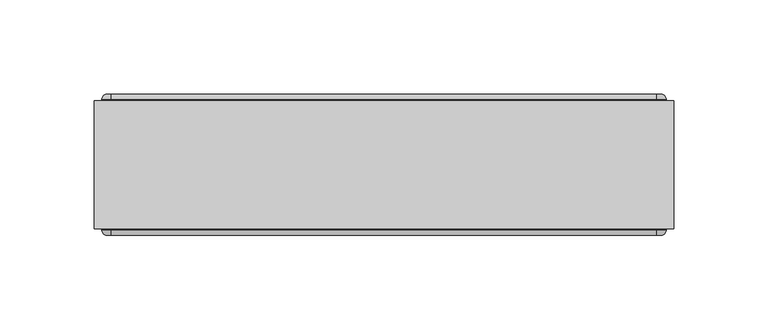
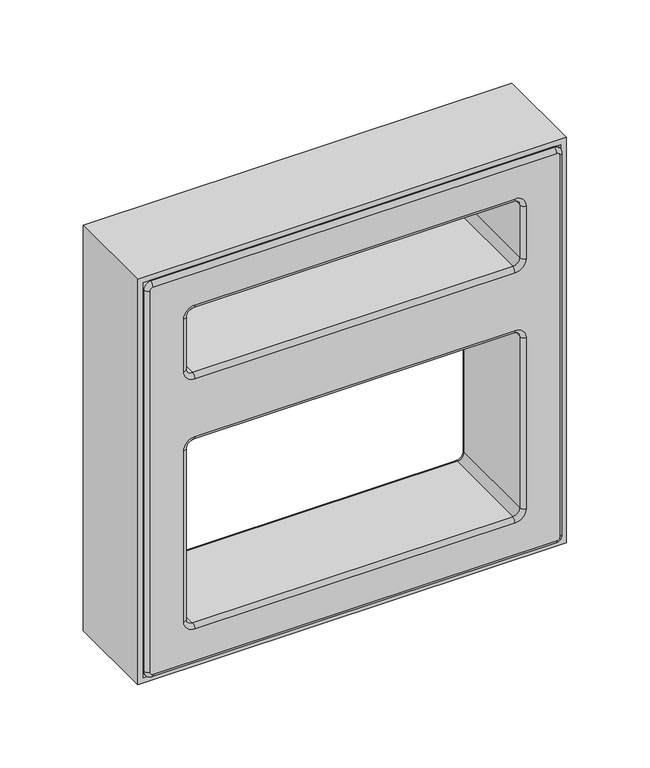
"""IFC4 building model written with IfcOpenShell, lengths in millimetres: proxy geometry, PORTOBELLO - ELEMENTO ASSIM BRANCO 30X30 (COBOGO) : ASSIM BRANCO."""

import ifcopenshell
import ifcopenshell.guid

model = None  # the IFC model being written
_history = None  # IfcOwnerHistory: only IFC2X3 demands one
_inside = {}  # id of a spatial element -> (the spatial element, [elements in it])
_under = {}  # id of a project, library or spatial element -> (it, [spatial elements below it])
_declared = {}  # id of a project -> (the project, [libraries it declares])
_typed = {}  # id of a type object -> (the type object, [elements of that type])
_made_of = {}  # id of a material, layer set ... -> (it, [elements and type objects made of it])


def new_model(schema):
    """Start an empty IFC model of exactly this schema.

    Asked for "IFC4X3", IfcOpenShell would pick the latest addendum, in which some entities
    have other attributes; the version numbers below select the first issue.
    IFC2X3 requires an IfcOwnerHistory on every rooted entity: one is made here for all.
    """
    global model, _history
    if schema == "IFC4X3":
        model = ifcopenshell.file(schema_version=(4, 3, 0, 0))
    else:
        model = ifcopenshell.file(schema=schema)
    _inside.clear()
    _under.clear()
    _declared.clear()
    _typed.clear()
    _made_of.clear()
    _history = None
    if model.schema == "IFC2X3":
        org = make("IfcOrganization", Name="unknown")
        user = make(
            "IfcPersonAndOrganization",
            ThePerson=make("IfcPerson", FamilyName="unknown"),
            TheOrganization=org,
        )
        app = make(
            "IfcApplication",
            ApplicationDeveloper=org,
            Version="unknown",
            ApplicationFullName="unknown",
            ApplicationIdentifier="unknown",
        )
        _history = make(
            "IfcOwnerHistory",
            OwningUser=user,
            OwningApplication=app,
            ChangeAction="ADDED",
            CreationDate=0,
        )
    return model


def make(cls, **values):
    """One entity of the class cls with the attributes given. An attribute that is None is left unset."""
    return model.create_entity(
        cls, **{name: value for name, value in values.items() if value is not None}
    )


def rooted(cls, **values):
    """An entity with a GlobalId (a new one), such as an element, a storey or a relation."""
    return make(cls, GlobalId=ifcopenshell.guid.new(), OwnerHistory=_history, **values)


def si_unit(unit_type, name, prefix=None):
    """IfcSIUnit, for example si_unit("LENGTHUNIT", "METRE", prefix="MILLI")."""
    return make("IfcSIUnit", UnitType=unit_type, Prefix=prefix, Name=name)


def assignment(units):
    """IfcUnitAssignment: the units of a project."""
    return None if units is None else make("IfcUnitAssignment", Units=units)


def point(xyz):
    """IfcCartesianPoint."""
    return None if xyz is None else make("IfcCartesianPoint", Coordinates=xyz)


def direction(xyz):
    """IfcDirection."""
    return None if xyz is None else make("IfcDirection", DirectionRatios=xyz)


def frame(location, z_axis=None, x_axis=None):
    """IfcAxis2Placement3D, a coordinate frame: its origin and axes. An axis left out is left unset."""
    return make(
        "IfcAxis2Placement3D",
        Location=point(location),
        Axis=direction(z_axis),
        RefDirection=direction(x_axis),
    )


def origin():
    """The frame at (0, 0, 0) with its axes left unset."""
    return frame((0.0, 0.0, 0.0))


def place(relative_to, where):
    """IfcLocalPlacement: puts the frame where relative to a parent placement (None: the world)."""
    return make(
        "IfcLocalPlacement", PlacementRelTo=relative_to, RelativePlacement=where
    )


def context(
    kind, dimensions, precision=None, world=None, true_north=None, identifier=None
):
    """IfcGeometricRepresentationContext, for example the 3D "Model" context."""
    return make(
        "IfcGeometricRepresentationContext",
        ContextIdentifier=identifier,
        ContextType=kind,
        CoordinateSpaceDimension=dimensions,
        Precision=precision,
        WorldCoordinateSystem=world,
        TrueNorth=true_north,
    )


def project(units=None, contexts=None):
    """IfcProject with its units and contexts."""
    return rooted(
        "IfcProject",
        Name="project",
        RepresentationContexts=contexts,
        UnitsInContext=assignment(units),
    )


def spatial(cls, under=None, at=None, **own):
    """A site, building, storey or space (cls), placed at a placement, below another one or the project."""
    s = rooted(cls, ObjectPlacement=at, **own)
    if under is not None:
        _under.setdefault(under.id(), (under, []))[1].append(s)
    return s


def polyline(points):
    """IfcPolyline through the points."""
    return make("IfcPolyline", Points=[point(p) for p in points])


def circle_curve(where, radius):
    """IfcCircle in the frame where."""
    return make("IfcCircle", Position=where, Radius=radius)


def ellipse_curve(where, semi_axis1, semi_axis2):
    """IfcEllipse in the frame where."""
    return make(
        "IfcEllipse", Position=where, SemiAxis1=semi_axis1, SemiAxis2=semi_axis2
    )


def trimmed(basis, trim1, trim2, sense, master):
    """IfcTrimmedCurve: the piece of a basis curve between two trims."""
    return make(
        "IfcTrimmedCurve",
        BasisCurve=basis,
        Trim1=trim1,
        Trim2=trim2,
        SenseAgreement=sense,
        MasterRepresentation=master,
    )


def outline(outer, holes=None, kind="AREA"):
    """IfcArbitraryClosedProfileDef: a profile drawn as a closed curve; with holes, ...WithVoids."""
    if holes is None:
        return make("IfcArbitraryClosedProfileDef", ProfileType=kind, OuterCurve=outer)
    return make(
        "IfcArbitraryProfileDefWithVoids",
        ProfileType=kind,
        OuterCurve=outer,
        InnerCurves=holes,
    )


def extrude(swept, where, along, depth):
    """IfcExtrudedAreaSolid: the profile swept, set in the frame where, extruded along a direction by depth."""
    return make(
        "IfcExtrudedAreaSolid",
        SweptArea=swept,
        Position=where,
        ExtrudedDirection=direction(along),
        Depth=depth,
    )


def shape(context_of_items, identifier, shape_type, items):
    """IfcShapeRepresentation: the items that make up one representation, for example the "Body"."""
    return make(
        "IfcShapeRepresentation",
        ContextOfItems=context_of_items,
        RepresentationIdentifier=identifier,
        RepresentationType=shape_type,
        Items=items,
    )


def source(mapping_origin, context_of_items, identifier, shape_type, items):
    """IfcRepresentationMap: a shape defined once, which mapped items show again and again."""
    return make(
        "IfcRepresentationMap",
        MappingOrigin=mapping_origin,
        MappedRepresentation=shape(context_of_items, identifier, shape_type, items),
    )


def transform(
    local_origin,
    x_axis=None,
    y_axis=None,
    z_axis=None,
    scale=None,
    scale2=None,
    scale3=None,
    uniform=True,
):
    """IfcCartesianTransformationOperator3D, or its non-uniform kind. x_axis, y_axis, z_axis: its Axis1, 2, 3."""
    if uniform:
        return make(
            "IfcCartesianTransformationOperator3D",
            Axis1=direction(x_axis),
            Axis2=direction(y_axis),
            LocalOrigin=point(local_origin),
            Scale=scale,
            Axis3=direction(z_axis),
        )
    return make(
        "IfcCartesianTransformationOperator3DnonUniform",
        Axis1=direction(x_axis),
        Axis2=direction(y_axis),
        LocalOrigin=point(local_origin),
        Scale=scale,
        Axis3=direction(z_axis),
        Scale2=scale2,
        Scale3=scale3,
    )


def mapped(mapping_source, mapping_target):
    """IfcMappedItem: shows the shape of a source again, moved by a transform."""
    return make(
        "IfcMappedItem", MappingSource=mapping_source, MappingTarget=mapping_target
    )


def made_of(thing, what):
    """Note that an element or type object is made of a material, layer set ...; save() writes the relation."""
    if what is not None:
        _made_of.setdefault(what.id(), (what, []))[1].append(thing)
    return thing


def element(
    cls,
    number,
    at=None,
    inside=None,
    cuts=None,
    type_object=None,
    material=None,
    context=None,
    identifier="Body",
    shape_type=None,
    held_by="IfcProductDefinitionShape",
    body=None,
    shapes=None,
    **own,
):
    """One element of the class cls, such as IfcWall. Its Tag is "e" and its number.

    at: its placement. inside: the storey or other place that contains it. cuts: it is an
    opening in that element (IfcRelVoidsElement). A single representation is given by context,
    identifier, shape_type and body (its items); several are given by shapes. held_by: the class
    of the entity that holds the representations. save() writes the other relations.
    """
    e = rooted(cls, Tag="e%d" % number, ObjectPlacement=at, **own)
    if body is not None:
        shapes = [shape(context, identifier, shape_type, body)]
    if shapes is not None:
        e.Representation = make(held_by, Representations=shapes)
    if inside is not None:
        _inside.setdefault(inside.id(), (inside, []))[1].append(e)
    if cuts is not None:
        rooted(
            "IfcRelVoidsElement", RelatingBuildingElement=cuts, RelatedOpeningElement=e
        )
    if type_object is not None:
        _typed.setdefault(type_object.id(), (type_object, []))[1].append(e)
    return made_of(e, material)


def aggregate(whole, parts):
    """IfcRelAggregates: a whole, such as a stair, and the parts it consists of."""
    return rooted("IfcRelAggregates", RelatingObject=whole, RelatedObjects=parts)


def save(model, path):
    """Write the relations noted so far, then the file.

    IfcRelAggregates (storeys below a building ...), IfcRelContainedInSpatialStructure (elements
    in a storey), IfcRelDefinesByType, IfcRelAssociatesMaterial and IfcRelDeclares: one each for
    every whole, place, type object, material and project.
    """
    for whole, parts in _under.values():
        aggregate(whole, parts)
    for where, things in _inside.values():
        rooted(
            "IfcRelContainedInSpatialStructure",
            RelatedElements=things,
            RelatingStructure=where,
        )
    for kind, things in _typed.values():
        rooted("IfcRelDefinesByType", RelatedObjects=things, RelatingType=kind)
    for what, things in _made_of.values():
        rooted("IfcRelAssociatesMaterial", RelatedObjects=things, RelatingMaterial=what)
    for by, libraries in _declared.values():
        rooted("IfcRelDeclares", RelatingContext=by, RelatedDefinitions=libraries)
    model.write(path)


def plane_surface(at):
    """IfcPlane: the flat surface through the origin of the frame at, square to its z axis."""
    return make("IfcPlane", Position=at)


def cylinder_surface(at, radius):
    """IfcCylindricalSurface: all points at the distance radius from the z axis of the frame at."""
    return make("IfcCylindricalSurface", Position=at, Radius=radius)


def revolved_surface(curve, axis_point, axis_direction):
    """IfcSurfaceOfRevolution: the curve turned about the line through axis_point along axis_direction."""
    return make(
        "IfcSurfaceOfRevolution",
        SweptCurve=make("IfcArbitraryOpenProfileDef", ProfileType="CURVE", Curve=curve),
        AxisPosition=make("IfcAxis1Placement", Location=point(axis_point), Axis=direction(axis_direction)),
    )


def advanced_brep(points, edges, surfaces, faces):
    """IfcAdvancedBrep: a solid bounded by faces that lie on surfaces and meet in shared edges.

    An edge is (start, end): straight between two places in points (the first is 0);
    or (start, end, curve); or (start, end, curve, False) where it runs against its curve.
    A face is (place in surfaces, loops), or (place, loops, False) where it looks against
    its surface's normal. A loop lists edges by number (the first is 1), with a minus sign
    where the edge is run from its end to its start. The first loop is the outer one.
    """
    corners = [point(p) for p in points]
    vertices = [make("IfcVertexPoint", VertexGeometry=c) for c in corners]
    made = []
    for start, end, *more in edges:
        made.append(
            make(
                "IfcEdgeCurve",
                EdgeStart=vertices[start],
                EdgeEnd=vertices[end],
                EdgeGeometry=more[0] if more else make("IfcPolyline", Points=[corners[start], corners[end]]),
                SameSense=more[1] if len(more) > 1 else True,
            )
        )
    hull = []
    for where, loops, *sense in faces:
        bounds = []
        for j, loop in enumerate(loops):
            ring = [make("IfcOrientedEdge", EdgeElement=made[abs(k) - 1], Orientation=k > 0) for k in loop]
            bounds.append(
                make(
                    "IfcFaceOuterBound" if j == 0 else "IfcFaceBound",
                    Bound=make("IfcEdgeLoop", EdgeList=ring),
                    Orientation=True,
                )
            )
        hull.append(make("IfcAdvancedFace", Bounds=bounds, FaceSurface=surfaces[where], SameSense=sense[0] if sense else True))
    return make("IfcAdvancedBrep", Outer=make("IfcClosedShell", CfsFaces=hull))


def generic_models_726e0611(model_context):
    return source(origin(), model_context, "Body", "SolidModel", [
        advanced_brep(
        [(-147.0, -37.5, 9.0), (-145.0, -37.5, 7.0), (145.0, -37.5, 7.0), (147.0, -37.5, 9.0), (147.0, -37.5, 299.0), (145.0, -37.5, 301.0), (-145.0, -37.5, 301.0), (-147.0, -37.5, 299.0), (-115.0, -37.5, 31.0), (-123.0, -37.5, 39.0), (-123.0, -37.5, 169.0), (-115.0, -37.5, 177.0), (115.0, -37.5, 177.0), (123.0, -37.5, 169.0), (123.0, -37.5, 39.0), (115.0, -37.5, 31.0), (-115.0, -37.5, 221.0), (-123.0, -37.5, 229.0), (-123.0, -37.5, 269.0), (-115.0, -37.5, 277.0), (115.0, -37.5, 277.0), (123.0, -37.5, 269.0), (123.0, -37.5, 229.0), (115.0, -37.5, 221.0), (-145.0, 37.5, 7.0), (-147.0, 37.5, 9.0), (-147.0, 37.5, 299.0), (-145.0, 37.5, 301.0), (145.0, 37.5, 301.0), (147.0, 37.5, 299.0), (147.0, 37.5, 9.0), (145.0, 37.5, 7.0), (-123.0, 37.5, 39.0), (-115.0, 37.5, 31.0), (115.0, 37.5, 31.0), (123.0, 37.5, 39.0), (123.0, 37.5, 169.0), (115.0, 37.5, 177.0), (-115.0, 37.5, 177.0), (-123.0, 37.5, 169.0), (-123.0, 37.5, 229.0), (-115.0, 37.5, 221.0), (115.0, 37.5, 221.0), (123.0, 37.5, 229.0), (123.0, 37.5, 269.0), (115.0, 37.5, 277.0), (-115.0, 37.5, 277.0), (-123.0, 37.5, 269.0), (145.0, -34.5, 4.0), (145.0, 34.5, 4.0), (150.0, 34.5, 9.0), (150.0, -34.5000025, 9.0), (-145.0, -34.5, 4.0), (-145.0, 34.5, 4.0), (-150.0, -34.5, 9.0), (-150.0, 34.5, 9.0), (-150.0, -34.5, 299.0), (-150.0, 34.5, 299.0), (-145.0, -34.5, 304.0), (-145.0, 34.5, 304.0), (145.0, -34.5, 304.0), (145.0, 34.5, 304.0), (150.0, -34.5, 299.0), (150.0, 34.5, 299.0), (115.0, -34.5000026, 34.0), (115.0, 34.5, 34.0), (-115.0, 34.5, 34.0), (-115.0, -34.5000017, 34.0), (120.0, -34.5, 39.0), (120.0, 34.5, 39.0), (120.0, -34.5, 169.0), (120.0, 34.5, 169.0), (115.0, -34.5, 174.0), (115.0, 34.5, 174.0), (-115.0, -34.5, 174.0), (-115.0, 34.5, 174.0), (-120.0, -34.5, 169.0), (-120.0, 34.5, 169.0), (-120.0, -34.5, 39.0), (-120.0, 34.5, 39.0), (-115.0, -34.5000026, 274.0), (-115.0, 34.5, 274.0), (115.0, 34.5, 274.0), (115.0, -34.5, 274.0), (-120.0, -34.5, 269.0), (-120.0, 34.5, 269.0), (-120.0, -34.5, 229.0), (-120.0, 34.5, 229.0), (-115.0, -34.5, 224.0), (-115.0, 34.5, 224.0), (115.0, -34.5, 224.0), (115.0, 34.5, 224.0), (120.0, -34.5, 229.0), (120.0, 34.5, 229.0), (120.0, -34.5, 269.0), (120.0, 34.5, 269.0)],
        [
            (0, 1, circle_curve(frame((-145.0, -37.5, 9.0), z_axis=(0.0, -1.0, 0.0), x_axis=(-1.0, 0.0, 0.0)), 2.0)),
            (1, 2),
            (2, 3, circle_curve(frame((145.0, -37.5, 9.0), z_axis=(0.0, -1.0, 0.0), x_axis=(0.0, 0.0, -1.0)), 2.0)),
            (3, 4),
            (4, 5, circle_curve(frame((145.0, -37.5, 299.0), z_axis=(0.0, -1.0, 0.0), x_axis=(1.0, 0.0, 0.0)), 2.0)),
            (5, 6),
            (6, 7, circle_curve(frame((-145.0, -37.5, 299.0), z_axis=(0.0, -1.0, 0.0), x_axis=(0.0, 0.0, 1.0)), 2.0)),
            (7, 0),
            (8, 9, circle_curve(frame((-115.0, -37.5, 39.0), z_axis=(0.0, 1.0, 0.0), x_axis=(0.0, 0.0, -1.0)), 8.0)),
            (9, 10),
            (10, 11, circle_curve(frame((-115.0, -37.5, 169.0), z_axis=(0.0, 1.0, 0.0), x_axis=(-1.0, 0.0, 0.0)), 8.0)),
            (11, 12),
            (12, 13, circle_curve(frame((115.0, -37.5, 169.0), z_axis=(0.0, 1.0, 0.0), x_axis=(0.0, 0.0, 1.0)), 8.0)),
            (13, 14),
            (14, 15, circle_curve(frame((115.0, -37.5, 39.0), z_axis=(0.0, 1.0, 0.0), x_axis=(1.0, 0.0, 0.0)), 8.0)),
            (15, 8),
            (16, 17, circle_curve(frame((-115.0, -37.5, 229.0), z_axis=(0.0, 1.0, 0.0), x_axis=(0.0, 0.0, -1.0)), 8.0)),
            (17, 18),
            (18, 19, circle_curve(frame((-115.0, -37.5, 269.0), z_axis=(0.0, 1.0, 0.0), x_axis=(-1.0, 0.0, 0.0)), 8.0)),
            (19, 20),
            (20, 21, circle_curve(frame((115.0, -37.5, 269.0), z_axis=(0.0, 1.0, 0.0), x_axis=(0.0, 0.0, 1.0)), 8.0)),
            (21, 22),
            (22, 23, circle_curve(frame((115.0, -37.5, 229.0), z_axis=(0.0, 1.0, 0.0), x_axis=(1.0, 0.0, 0.0)), 8.0)),
            (23, 16),
            (24, 25, circle_curve(frame((-145.0, 37.5, 9.0), z_axis=(0.0, 1.0, 0.0), x_axis=(-1.0, 0.0, 0.0)), 2.0)),
            (25, 26),
            (26, 27, circle_curve(frame((-145.0, 37.5, 299.0), z_axis=(0.0, 1.0, 0.0), x_axis=(0.0, 0.0, 1.0)), 2.0)),
            (27, 28),
            (28, 29, circle_curve(frame((145.0, 37.5, 299.0), z_axis=(0.0, 1.0, 0.0), x_axis=(1.0, 0.0, 0.0)), 2.0)),
            (29, 30),
            (30, 31, circle_curve(frame((145.0, 37.5, 9.0), z_axis=(0.0, 1.0, 0.0), x_axis=(0.0, 0.0, -1.0)), 2.0)),
            (31, 24),
            (32, 33, circle_curve(frame((-115.0, 37.5, 39.0), z_axis=(0.0, -1.0, 0.0), x_axis=(0.0, 0.0, -1.0)), 8.0)),
            (33, 34),
            (34, 35, circle_curve(frame((115.0, 37.5, 39.0), z_axis=(0.0, -1.0, 0.0), x_axis=(1.0, 0.0, 0.0)), 8.0)),
            (35, 36),
            (36, 37, circle_curve(frame((115.0, 37.5, 169.0), z_axis=(0.0, -1.0, 0.0), x_axis=(0.0, 0.0, 1.0)), 8.0)),
            (37, 38),
            (38, 39, circle_curve(frame((-115.0, 37.5, 169.0), z_axis=(0.0, -1.0, 0.0), x_axis=(-1.0, 0.0, 0.0)), 8.0)),
            (39, 32),
            (40, 41, circle_curve(frame((-115.0, 37.5, 229.0), z_axis=(0.0, -1.0, 0.0), x_axis=(0.0, 0.0, -1.0)), 8.0)),
            (41, 42),
            (42, 43, circle_curve(frame((115.0, 37.5, 229.0), z_axis=(0.0, -1.0, 0.0), x_axis=(1.0, 0.0, 0.0)), 8.0)),
            (43, 44),
            (44, 45, circle_curve(frame((115.0, 37.5, 269.0), z_axis=(0.0, -1.0, 0.0), x_axis=(0.0, 0.0, 1.0)), 8.0)),
            (45, 46),
            (46, 47, circle_curve(frame((-115.0, 37.5, 269.0), z_axis=(0.0, -1.0, 0.0), x_axis=(-1.0, 0.0, 0.0)), 8.0)),
            (47, 40),
            (48, 49),
            (49, 50, circle_curve(frame((145.0, 34.5, 9.0), z_axis=(0.0, -1.0, 0.0), x_axis=(0.0, 0.0, 1.0)), 5.0)),
            (50, 51),
            (51, 48, circle_curve(frame((145.0, -34.5, 9.0), z_axis=(0.0, 1.0, 0.0), x_axis=(0.0, 0.0, 1.0)), 5.0)),
            (48, 52),
            (52, 53),
            (53, 49),
            (52, 54, circle_curve(frame((-145.0, -34.5, 9.0), z_axis=(0.0, 1.0, 0.0), x_axis=(0.0, 0.0, 1.0)), 5.0)),
            (54, 55),
            (55, 53, circle_curve(frame((-145.0, 34.5, 9.0), z_axis=(0.0, -1.0, 0.0), x_axis=(0.0, 0.0, 1.0)), 5.0)),
            (54, 56),
            (56, 57),
            (57, 55),
            (56, 58, circle_curve(frame((-145.0, -34.5, 299.0), z_axis=(0.0, 1.0, 0.0), x_axis=(0.0, 0.0, 1.0)), 5.0)),
            (58, 59),
            (59, 57, circle_curve(frame((-145.0, 34.5, 299.0), z_axis=(0.0, -1.0, 0.0), x_axis=(0.0, 0.0, 1.0)), 5.0)),
            (58, 60),
            (60, 61),
            (61, 59),
            (60, 62, circle_curve(frame((145.0, -34.5, 299.0), z_axis=(0.0, 1.0, 0.0), x_axis=(0.0, 0.0, 1.0)), 5.0)),
            (62, 63),
            (63, 61, circle_curve(frame((145.0, 34.5, 299.0), z_axis=(0.0, -1.0, 0.0), x_axis=(0.0, 0.0, 1.0)), 5.0)),
            (62, 51),
            (50, 63),
            (64, 65),
            (65, 66),
            (66, 67),
            (67, 64),
            (64, 68, circle_curve(frame((115.0, -34.5, 39.0), z_axis=(0.0, -1.0, 0.0), x_axis=(0.0, 0.0, 1.0)), 5.0)),
            (68, 69),
            (69, 65, circle_curve(frame((115.0, 34.5, 39.0), z_axis=(0.0, 1.0, 0.0), x_axis=(0.0, 0.0, 1.0)), 5.0)),
            (68, 70),
            (70, 71),
            (71, 69),
            (70, 72, circle_curve(frame((115.0, -34.5, 169.0), z_axis=(0.0, -1.0, 0.0), x_axis=(0.0, 0.0, 1.0)), 5.0)),
            (72, 73),
            (73, 71, circle_curve(frame((115.0, 34.5, 169.0), z_axis=(0.0, 1.0, 0.0), x_axis=(0.0, 0.0, 1.0)), 5.0)),
            (72, 74),
            (74, 75),
            (75, 73),
            (74, 76, circle_curve(frame((-115.0, -34.5, 169.0), z_axis=(0.0, -1.0, 0.0), x_axis=(0.0, 0.0, 1.0)), 5.0)),
            (76, 77),
            (77, 75, circle_curve(frame((-115.0, 34.5, 169.0), z_axis=(0.0, 1.0, 0.0), x_axis=(0.0, 0.0, 1.0)), 5.0)),
            (76, 78),
            (78, 79),
            (79, 77),
            (78, 67, circle_curve(frame((-115.0, -34.5, 39.0), z_axis=(0.0, -1.0, 0.0), x_axis=(0.0, 0.0, 1.0)), 5.0)),
            (66, 79, circle_curve(frame((-115.0, 34.5, 39.0), z_axis=(0.0, 1.0, 0.0), x_axis=(0.0, 0.0, 1.0)), 5.0)),
            (80, 81),
            (81, 82),
            (82, 83),
            (83, 80),
            (80, 84, circle_curve(frame((-115.0, -34.5, 269.0), z_axis=(0.0, -1.0, 0.0), x_axis=(0.0, 0.0, 1.0)), 5.0)),
            (84, 85),
            (85, 81, circle_curve(frame((-115.0, 34.5, 269.0), z_axis=(0.0, 1.0, 0.0), x_axis=(0.0, 0.0, 1.0)), 5.0)),
            (84, 86),
            (86, 87),
            (87, 85),
            (86, 88, circle_curve(frame((-115.0, -34.5, 229.0), z_axis=(0.0, -1.0, 0.0), x_axis=(0.0, 0.0, 1.0)), 5.0)),
            (88, 89),
            (89, 87, circle_curve(frame((-115.0, 34.5, 229.0), z_axis=(0.0, 1.0, 0.0), x_axis=(0.0, 0.0, 1.0)), 5.0)),
            (88, 90),
            (90, 91),
            (91, 89),
            (90, 92, circle_curve(frame((115.0, -34.5, 229.0), z_axis=(0.0, -1.0, 0.0), x_axis=(0.0, 0.0, 1.0)), 5.0)),
            (92, 93),
            (93, 91, circle_curve(frame((115.0, 34.5, 229.0), z_axis=(0.0, 1.0, 0.0), x_axis=(0.0, 0.0, 1.0)), 5.0)),
            (92, 94),
            (94, 95),
            (95, 93),
            (94, 83, circle_curve(frame((115.0, -34.5, 269.0), z_axis=(0.0, -1.0, 0.0), x_axis=(0.0, 0.0, 1.0)), 5.0)),
            (82, 95, circle_curve(frame((115.0, 34.5, 269.0), z_axis=(0.0, 1.0, 0.0), x_axis=(0.0, 0.0, 1.0)), 5.0)),
            (78, 9, circle_curve(frame((-123.0, -34.5, 39.0), z_axis=(0.0, 0.0, -1.0), x_axis=(0.0, -1.0, 0.0)), 3.0)),
            (8, 67, circle_curve(frame((-115.0, -34.5, 31.0), z_axis=(-1.0, 0.0, 0.0), x_axis=(0.0, -1.0, 0.0)), 3.0)),
            (32, 79, circle_curve(frame((-123.0, 34.5, 39.0), z_axis=(0.0, 0.0, -1.0), x_axis=(0.0, -1.0, 0.0)), 3.0)),
            (66, 33, circle_curve(frame((-115.0, 34.5, 31.0), z_axis=(-1.0, 0.0, 0.0), x_axis=(0.0, -1.0, 0.0)), 3.0)),
            (76, 10, circle_curve(frame((-123.0, -34.5, 169.0), z_axis=(0.0, 0.0, -1.0), x_axis=(0.0, -1.0, 0.0)), 3.0)),
            (39, 77, circle_curve(frame((-123.0, 34.5, 169.0), z_axis=(0.0, 0.0, -1.0), x_axis=(0.0, -1.0, 0.0)), 3.0)),
            (74, 11, circle_curve(frame((-115.0, -34.5, 177.0), z_axis=(-1.0, 0.0, 0.0), x_axis=(0.0, -1.0, 0.0)), 3.0)),
            (38, 75, circle_curve(frame((-115.0, 34.5, 177.0), z_axis=(-1.0, 0.0, 0.0), x_axis=(0.0, -1.0, 0.0)), 3.0)),
            (72, 12, circle_curve(frame((115.0, -34.5, 177.0), z_axis=(-1.0, 0.0, 0.0), x_axis=(0.0, -1.0, 0.0)), 3.0)),
            (37, 73, circle_curve(frame((115.0, 34.5, 177.0), z_axis=(-1.0, 0.0, 0.0), x_axis=(0.0, -1.0, 0.0)), 3.0)),
            (70, 13, circle_curve(frame((123.0, -34.5, 169.0), z_axis=(0.0, 0.0, 1.0), x_axis=(0.0, -1.0, 0.0)), 3.0)),
            (36, 71, circle_curve(frame((123.0, 34.5, 169.0), z_axis=(0.0, 0.0, 1.0), x_axis=(0.0, -1.0, 0.0)), 3.0)),
            (68, 14, circle_curve(frame((123.0, -34.5, 39.0), z_axis=(0.0, 0.0, 1.0), x_axis=(0.0, -1.0, 0.0)), 3.0)),
            (35, 69, circle_curve(frame((123.0, 34.5, 39.0), z_axis=(0.0, 0.0, 1.0), x_axis=(0.0, -1.0, 0.0)), 3.0)),
            (64, 15, circle_curve(frame((115.0, -34.5, 31.0), z_axis=(1.0, 0.0, 0.0), x_axis=(0.0, -1.0, 0.0)), 3.0)),
            (34, 65, circle_curve(frame((115.0, 34.5, 31.0), z_axis=(1.0, 0.0, 0.0), x_axis=(0.0, -1.0, 0.0)), 3.0)),
            (86, 17, circle_curve(frame((-123.0, -34.5, 229.0), z_axis=(0.0, 0.0, -1.0), x_axis=(0.0, -1.0, 0.0)), 3.0)),
            (16, 88, circle_curve(frame((-115.0, -34.5, 221.0), z_axis=(-1.0, 0.0, 0.0), x_axis=(0.0, -1.0, 0.0)), 3.0)),
            (40, 87, circle_curve(frame((-123.0, 34.5, 229.0), z_axis=(0.0, 0.0, -1.0), x_axis=(0.0, -1.0, 0.0)), 3.0)),
            (89, 41, circle_curve(frame((-115.0, 34.5, 221.0), z_axis=(-1.0, 0.0, 0.0), x_axis=(0.0, -1.0, 0.0)), 3.0)),
            (84, 18, circle_curve(frame((-123.0, -34.5, 269.0), z_axis=(0.0, 0.0, -1.0), x_axis=(0.0, -1.0, 0.0)), 3.0)),
            (47, 85, circle_curve(frame((-123.0, 34.5, 269.0), z_axis=(0.0, 0.0, -1.0), x_axis=(0.0, -1.0, 0.0)), 3.0)),
            (80, 19, circle_curve(frame((-115.0, -34.5, 277.0), z_axis=(-1.0, 0.0, 0.0), x_axis=(0.0, -1.0, 0.0)), 3.0)),
            (46, 81, circle_curve(frame((-115.0, 34.5, 277.0), z_axis=(-1.0, 0.0, 0.0), x_axis=(0.0, -1.0, 0.0)), 3.0)),
            (83, 20, circle_curve(frame((115.0, -34.5, 277.0), z_axis=(-1.0, 0.0, 0.0), x_axis=(0.0, -1.0, 0.0)), 3.0)),
            (45, 82, circle_curve(frame((115.0, 34.5, 277.0), z_axis=(-1.0, 0.0, 0.0), x_axis=(0.0, -1.0, 0.0)), 3.0)),
            (94, 21, circle_curve(frame((123.0, -34.5, 269.0), z_axis=(0.0, 0.0, 1.0), x_axis=(0.0, -1.0, 0.0)), 3.0)),
            (44, 95, circle_curve(frame((123.0, 34.5, 269.0), z_axis=(0.0, 0.0, 1.0), x_axis=(0.0, -1.0, 0.0)), 3.0)),
            (92, 22, circle_curve(frame((123.0, -34.5, 229.0), z_axis=(0.0, 0.0, 1.0), x_axis=(0.0, -1.0, 0.0)), 3.0)),
            (43, 93, circle_curve(frame((123.0, 34.5, 229.0), z_axis=(0.0, 0.0, 1.0), x_axis=(0.0, -1.0, 0.0)), 3.0)),
            (90, 23, circle_curve(frame((115.0, -34.5, 221.0), z_axis=(1.0, 0.0, 0.0), x_axis=(0.0, -1.0, 0.0)), 3.0)),
            (42, 91, circle_curve(frame((115.0, 34.5, 221.0), z_axis=(1.0, 0.0, 0.0), x_axis=(0.0, -1.0, 0.0)), 3.0)),
            (52, 1, circle_curve(frame((-145.0, -34.5, 7.0), z_axis=(-1.0, 0.0, 0.0), x_axis=(0.0, 0.0, -1.0)), 3.0)),
            (0, 54, circle_curve(frame((-147.0, -34.5, 9.0), z_axis=(0.0, 0.0, -1.0), x_axis=(-1.0, 0.0, 0.0)), 3.0)),
            (24, 53, circle_curve(frame((-145.0, 34.5, 7.0), z_axis=(-1.0, 0.0, 0.0), x_axis=(0.0, 0.0, -1.0)), 3.0)),
            (55, 25, circle_curve(frame((-147.0, 34.5, 9.0), z_axis=(0.0, 0.0, -1.0), x_axis=(-1.0, 0.0, 0.0)), 3.0)),
            (48, 2, circle_curve(frame((145.0, -34.5, 7.0), z_axis=(-1.0, 0.0, 0.0), x_axis=(0.0, 0.0, -1.0)), 3.0)),
            (31, 49, circle_curve(frame((145.0, 34.5, 7.0), z_axis=(-1.0, 0.0, 0.0), x_axis=(0.0, 0.0, -1.0)), 3.0)),
            (51, 3, circle_curve(frame((147.0, -34.5, 9.0), z_axis=(0.0, 0.0, -1.0), x_axis=(1.0, 0.0, 0.0)), 3.0)),
            (30, 50, circle_curve(frame((147.0, 34.5, 9.0), z_axis=(0.0, 0.0, -1.0), x_axis=(1.0, 0.0, 0.0)), 3.0)),
            (62, 4, circle_curve(frame((147.0, -34.5, 299.0), z_axis=(0.0, 0.0, -1.0), x_axis=(1.0, 0.0, 0.0)), 3.0)),
            (29, 63, circle_curve(frame((147.0, 34.5, 299.0), z_axis=(0.0, 0.0, -1.0), x_axis=(1.0, 0.0, 0.0)), 3.0)),
            (60, 5, circle_curve(frame((145.0, -34.5, 301.0), z_axis=(1.0, 0.0, 0.0), x_axis=(0.0, 0.0, 1.0)), 3.0)),
            (28, 61, circle_curve(frame((145.0, 34.5, 301.0), z_axis=(1.0, 0.0, 0.0), x_axis=(0.0, 0.0, 1.0)), 3.0)),
            (58, 6, circle_curve(frame((-145.0, -34.5, 301.0), z_axis=(1.0, 0.0, 0.0), x_axis=(0.0, 0.0, 1.0)), 3.0)),
            (27, 59, circle_curve(frame((-145.0, 34.5, 301.0), z_axis=(1.0, 0.0, 0.0), x_axis=(0.0, 0.0, 1.0)), 3.0)),
            (56, 7, circle_curve(frame((-147.0, -34.5, 299.0), z_axis=(0.0, 0.0, 1.0), x_axis=(-1.0, 0.0, 0.0)), 3.0)),
            (26, 57, circle_curve(frame((-147.0, 34.5, 299.0), z_axis=(0.0, 0.0, 1.0), x_axis=(-1.0, 0.0, 0.0)), 3.0)),
        ],
        [
            plane_surface(frame((150.0, -37.5, 304.0), z_axis=(0.0, -1.0, 0.0), x_axis=(0.0, 0.0, 1.0))),
            plane_surface(frame((150.0, 37.5, 304.0), z_axis=(0.0, 1.0, 0.0), x_axis=(0.0, 0.0, -1.0))),
            cylinder_surface(frame((145.0, 37.5, 9.0), z_axis=(0.0, -1.0, 0.0), x_axis=(0.0, 0.0, 1.0)), 5.0),
            plane_surface(frame((-145.0, -37.5, 4.0), z_axis=(0.0, 0.0, -1.0), x_axis=(0.0, 1.0, 0.0))),
            cylinder_surface(frame((-145.0, 37.5, 9.0), z_axis=(0.0, -1.0, 0.0), x_axis=(0.0, 0.0, 1.0)), 5.0),
            plane_surface(frame((-150.0, -37.5, 299.0), z_axis=(-1.0, 0.0, 0.0), x_axis=(0.0, 1.0, 0.0))),
            cylinder_surface(frame((-145.0, 37.5, 299.0), z_axis=(0.0, -1.0, 0.0), x_axis=(0.0, 0.0, 1.0)), 5.0),
            plane_surface(frame((145.0, -37.5, 304.0), z_axis=(0.0, 0.0, 1.0), x_axis=(0.0, 1.0, 0.0))),
            cylinder_surface(frame((145.0, 37.5, 299.0), z_axis=(0.0, -1.0, 0.0), x_axis=(0.0, 0.0, 1.0)), 5.0),
            plane_surface(frame((150.0, -37.5, 9.0), z_axis=(1.0, 0.0, 0.0), x_axis=(0.0, 1.0, 0.0))),
            plane_surface(frame((115.0, -37.5, 34.0), z_axis=(0.0, 0.0, 1.0), x_axis=(0.0, 1.0, 0.0))),
            revolved_surface(polyline([(115.0, 34.5, 44.0), (115.0, -34.5000026, 44.0)]), (115.0, 0.0, 39.0), (0.0, 1.0, 0.0)),
            plane_surface(frame((120.0, -37.5, 169.0), z_axis=(-1.0, 0.0, 0.0), x_axis=(0.0, 1.0, 0.0))),
            revolved_surface(polyline([(115.0, 34.5, 174.0), (115.0, -34.5, 174.0)]), (115.0, 0.0, 169.0), (0.0, 1.0, 0.0)),
            plane_surface(frame((-115.0, -37.5, 174.0), z_axis=(0.0, 0.0, -1.0), x_axis=(0.0, 1.0, 0.0))),
            revolved_surface(polyline([(-115.0, 34.5, 174.0), (-115.0, -34.5, 174.0)]), (-115.0, 0.0, 169.0), (0.0, 1.0, 0.0)),
            plane_surface(frame((-120.0, -37.5, 39.0), z_axis=(1.0, 0.0, 0.0), x_axis=(0.0, 1.0, 0.0))),
            revolved_surface(polyline([(-115.0, 34.5, 44.0), (-115.0, -34.5000017, 44.0)]), (-115.0, 0.0, 39.0), (0.0, 1.0, 0.0)),
            plane_surface(frame((-115.0, -37.5, 274.0), z_axis=(0.0, 0.0, -1.0), x_axis=(0.0, 1.0, 0.0))),
            revolved_surface(polyline([(-115.0, 34.5, 274.0), (-115.0, -34.5000026, 274.0)]), (-115.0, 0.0, 269.0), (0.0, 1.0, 0.0)),
            plane_surface(frame((-120.0, -37.5, 229.0), z_axis=(1.0, 0.0, 0.0), x_axis=(0.0, 1.0, 0.0))),
            revolved_surface(polyline([(-115.0, 34.5, 234.0), (-115.0, -34.5, 234.0)]), (-115.0, 0.0, 229.0), (0.0, 1.0, 0.0)),
            plane_surface(frame((115.0, -37.5, 224.0), z_axis=(0.0, 0.0, 1.0), x_axis=(0.0, 1.0, 0.0))),
            revolved_surface(polyline([(115.0, 34.5, 234.0), (115.0, -34.5, 234.0)]), (115.0, 0.0, 229.0), (0.0, 1.0, 0.0)),
            plane_surface(frame((120.0, -37.5, 269.0), z_axis=(-1.0, 0.0, 0.0), x_axis=(0.0, 1.0, 0.0))),
            revolved_surface(polyline([(115.0, 34.5, 274.0), (115.0, -34.5, 274.0)]), (115.0, 0.0, 269.0), (0.0, 1.0, 0.0)),
            revolved_surface(trimmed(ellipse_curve(frame((-115.0, -34.5, 31.0), z_axis=(1.0, 0.0, 0.0), x_axis=(0.0, -1.0, 0.0)), 3.0, 3.0), [point((-115.0, -34.5, 34.0))], [point((-115.0, -37.5, 31.0))], True, "CARTESIAN"), (-115.0, -37.5, 39.0), (0.0, 1.0, 0.0)),
            revolved_surface(trimmed(ellipse_curve(frame((-115.0, 34.5, 31.0), z_axis=(1.0, 0.0, 0.0), x_axis=(0.0, -1.0, 0.0)), 3.0, 3.0), [point((-115.0, 37.5, 31.0))], [point((-115.0, 34.5, 34.0))], True, "CARTESIAN"), (-115.0, -37.5, 39.0), (0.0, 1.0, 0.0)),
            cylinder_surface(frame((-123.0, -34.5, 39.0), z_axis=(0.0, 0.0, 1.0), x_axis=(0.0, -1.0, 0.0)), 3.0),
            cylinder_surface(frame((-123.0, 34.5, 39.0), z_axis=(0.0, 0.0, 1.0), x_axis=(0.0, -1.0, 0.0)), 3.0),
            revolved_surface(trimmed(ellipse_curve(frame((-123.0, -34.5, 169.0), z_axis=(0.0, 0.0, -1.0), x_axis=(0.0, -1.0, 0.0)), 3.0, 3.0), [point((-120.0, -34.5, 169.0))], [point((-123.0, -37.5, 169.0))], True, "CARTESIAN"), (-115.0, -37.5, 169.0), (0.0, 1.0, 0.0)),
            revolved_surface(trimmed(ellipse_curve(frame((-123.0, 34.5, 169.0), z_axis=(0.0, 0.0, -1.0), x_axis=(0.0, -1.0, 0.0)), 3.0, 3.0), [point((-123.0, 37.5, 169.0))], [point((-120.0, 34.5, 169.0))], True, "CARTESIAN"), (-115.0, -37.5, 169.0), (0.0, 1.0, 0.0)),
            cylinder_surface(frame((-115.0, -34.5, 177.0), z_axis=(1.0, 0.0, 0.0), x_axis=(0.0, -1.0, 0.0)), 3.0),
            cylinder_surface(frame((-115.0, 34.5, 177.0), z_axis=(1.0, 0.0, 0.0), x_axis=(0.0, -1.0, 0.0)), 3.0),
            revolved_surface(trimmed(ellipse_curve(frame((115.0, -34.5, 177.0), z_axis=(-1.0, 0.0, 0.0), x_axis=(0.0, -1.0, 0.0)), 3.0, 3.0), [point((115.0, -34.5, 174.0))], [point((115.0, -37.5, 177.0))], True, "CARTESIAN"), (115.0, -37.5, 169.0), (0.0, 1.0, 0.0)),
            revolved_surface(trimmed(ellipse_curve(frame((115.0, 34.5, 177.0), z_axis=(-1.0, 0.0, 0.0), x_axis=(0.0, -1.0, 0.0)), 3.0, 3.0), [point((115.0, 37.5, 177.0))], [point((115.0, 34.5, 174.0))], True, "CARTESIAN"), (115.0, -37.5, 169.0), (0.0, 1.0, 0.0)),
            cylinder_surface(frame((123.0, -34.5, 169.0), z_axis=(0.0, 0.0, -1.0), x_axis=(0.0, -1.0, 0.0)), 3.0),
            cylinder_surface(frame((123.0, 34.5, 169.0), z_axis=(0.0, 0.0, -1.0), x_axis=(0.0, -1.0, 0.0)), 3.0),
            revolved_surface(trimmed(ellipse_curve(frame((123.0, -34.5, 39.0), z_axis=(0.0, 0.0, 1.0), x_axis=(0.0, -1.0, 0.0)), 3.0, 3.0), [point((120.0, -34.5, 39.0))], [point((123.0, -37.5, 39.0))], True, "CARTESIAN"), (115.0, -37.5, 39.0), (0.0, 1.0, 0.0)),
            revolved_surface(trimmed(ellipse_curve(frame((123.0, 34.5, 39.0), z_axis=(0.0, 0.0, 1.0), x_axis=(0.0, -1.0, 0.0)), 3.0, 3.0), [point((123.0, 37.5, 39.0))], [point((120.0, 34.5, 39.0))], True, "CARTESIAN"), (115.0, -37.5, 39.0), (0.0, 1.0, 0.0)),
            cylinder_surface(frame((115.0, -34.5, 31.0), z_axis=(-1.0, 0.0, 0.0), x_axis=(0.0, -1.0, 0.0)), 3.0),
            cylinder_surface(frame((115.0, 34.5, 31.0), z_axis=(-1.0, 0.0, 0.0), x_axis=(0.0, -1.0, 0.0)), 3.0),
            revolved_surface(trimmed(ellipse_curve(frame((-115.0, -34.5, 221.0), z_axis=(1.0, 0.0, 0.0), x_axis=(0.0, -1.0, 0.0)), 3.0, 3.0), [point((-115.0, -34.5, 224.0))], [point((-115.0, -37.5, 221.0))], True, "CARTESIAN"), (-115.0, -37.5, 229.0), (0.0, 1.0, 0.0)),
            revolved_surface(trimmed(ellipse_curve(frame((-115.0, 34.5, 221.0), z_axis=(1.0, 0.0, 0.0), x_axis=(0.0, -1.0, 0.0)), 3.0, 3.0), [point((-115.0, 37.5, 221.0))], [point((-115.0, 34.5, 224.0))], True, "CARTESIAN"), (-115.0, -37.5, 229.0), (0.0, 1.0, 0.0)),
            cylinder_surface(frame((-123.0, -34.5, 229.0), z_axis=(0.0, 0.0, 1.0), x_axis=(0.0, -1.0, 0.0)), 3.0),
            cylinder_surface(frame((-123.0, 34.5, 229.0), z_axis=(0.0, 0.0, 1.0), x_axis=(0.0, -1.0, 0.0)), 3.0),
            revolved_surface(trimmed(ellipse_curve(frame((-123.0, -34.5, 269.0), z_axis=(0.0, 0.0, -1.0), x_axis=(0.0, -1.0, 0.0)), 3.0, 3.0), [point((-120.0, -34.5, 269.0))], [point((-123.0, -37.5, 269.0))], True, "CARTESIAN"), (-115.0, -37.5, 269.0), (0.0, 1.0, 0.0)),
            revolved_surface(trimmed(ellipse_curve(frame((-123.0, 34.5, 269.0), z_axis=(0.0, 0.0, -1.0), x_axis=(0.0, -1.0, 0.0)), 3.0, 3.0), [point((-123.0, 37.5, 269.0))], [point((-120.0, 34.5, 269.0))], True, "CARTESIAN"), (-115.0, -37.5, 269.0), (0.0, 1.0, 0.0)),
            cylinder_surface(frame((-115.0, -34.5, 277.0), z_axis=(1.0, 0.0, 0.0), x_axis=(0.0, -1.0, 0.0)), 3.0),
            cylinder_surface(frame((-115.0, 34.5, 277.0), z_axis=(1.0, 0.0, 0.0), x_axis=(0.0, -1.0, 0.0)), 3.0),
            revolved_surface(trimmed(ellipse_curve(frame((115.0, -34.5, 277.0), z_axis=(-1.0, 0.0, 0.0), x_axis=(0.0, -1.0, 0.0)), 3.0, 3.0), [point((115.0, -34.5, 274.0))], [point((115.0, -37.5, 277.0))], True, "CARTESIAN"), (115.0, -37.5, 269.0), (0.0, 1.0, 0.0)),
            revolved_surface(trimmed(ellipse_curve(frame((115.0, 34.5, 277.0), z_axis=(-1.0, 0.0, 0.0), x_axis=(0.0, -1.0, 0.0)), 3.0, 3.0), [point((115.0, 37.5, 277.0))], [point((115.0, 34.5, 274.0))], True, "CARTESIAN"), (115.0, -37.5, 269.0), (0.0, 1.0, 0.0)),
            cylinder_surface(frame((123.0, -34.5, 269.0), z_axis=(0.0, 0.0, -1.0), x_axis=(0.0, -1.0, 0.0)), 3.0),
            cylinder_surface(frame((123.0, 34.5, 269.0), z_axis=(0.0, 0.0, -1.0), x_axis=(0.0, -1.0, 0.0)), 3.0),
            revolved_surface(trimmed(ellipse_curve(frame((123.0, -34.5, 229.0), z_axis=(0.0, 0.0, 1.0), x_axis=(0.0, -1.0, 0.0)), 3.0, 3.0), [point((120.0, -34.5, 229.0))], [point((123.0, -37.5, 229.0))], True, "CARTESIAN"), (115.0, -37.5, 229.0), (0.0, 1.0, 0.0)),
            revolved_surface(trimmed(ellipse_curve(frame((123.0, 34.5, 229.0), z_axis=(0.0, 0.0, 1.0), x_axis=(0.0, -1.0, 0.0)), 3.0, 3.0), [point((123.0, 37.5, 229.0))], [point((120.0, 34.5, 229.0))], True, "CARTESIAN"), (115.0, -37.5, 229.0), (0.0, 1.0, 0.0)),
            cylinder_surface(frame((115.0, -34.5, 221.0), z_axis=(-1.0, 0.0, 0.0), x_axis=(0.0, -1.0, 0.0)), 3.0),
            cylinder_surface(frame((115.0, 34.5, 221.0), z_axis=(-1.0, 0.0, 0.0), x_axis=(0.0, -1.0, 0.0)), 3.0),
            revolved_surface(trimmed(ellipse_curve(frame((-147.0, -34.5, 9.0), z_axis=(0.0, 0.0, 1.0), x_axis=(-1.0, 0.0, 0.0)), 3.0, 3.0), [point((-150.0, -34.5, 9.0))], [point((-147.0, -37.5, 9.0))], True, "CARTESIAN"), (-145.0, -37.5, 9.0), (0.0, -1.0, 0.0)),
            revolved_surface(trimmed(ellipse_curve(frame((-147.0, 34.5, 9.0), z_axis=(0.0, 0.0, 1.0), x_axis=(-1.0, 0.0, 0.0)), 3.0, 3.0), [point((-147.0, 37.5, 9.0))], [point((-150.0, 34.5, 9.0))], True, "CARTESIAN"), (-145.0, -37.5, 9.0), (0.0, -1.0, 0.0)),
            cylinder_surface(frame((-145.0, -34.5, 7.0), z_axis=(1.0, 0.0, 0.0), x_axis=(0.0, 0.0, -1.0)), 3.0),
            cylinder_surface(frame((-145.0, 34.5, 7.0), z_axis=(1.0, 0.0, 0.0), x_axis=(0.0, 0.0, -1.0)), 3.0),
            revolved_surface(trimmed(ellipse_curve(frame((145.0, -34.5, 7.0), z_axis=(-1.0, 0.0, 0.0), x_axis=(0.0, 0.0, -1.0)), 3.0, 3.0), [point((145.0, -34.5, 4.0))], [point((145.0, -37.5, 7.0))], True, "CARTESIAN"), (145.0, -37.5, 9.0), (0.0, -1.0, 0.0)),
            revolved_surface(trimmed(ellipse_curve(frame((145.0, 34.5, 7.0), z_axis=(-1.0, 0.0, 0.0), x_axis=(0.0, 0.0, -1.0)), 3.0, 3.0), [point((145.0, 37.5, 7.0))], [point((145.0, 34.5, 4.0))], True, "CARTESIAN"), (145.0, -37.5, 9.0), (0.0, -1.0, 0.0)),
            cylinder_surface(frame((147.0, -34.5, 9.0), z_axis=(0.0, 0.0, 1.0), x_axis=(1.0, 0.0, 0.0)), 3.0),
            cylinder_surface(frame((147.0, 34.5, 9.0), z_axis=(0.0, 0.0, 1.0), x_axis=(1.0, 0.0, 0.0)), 3.0),
            revolved_surface(trimmed(ellipse_curve(frame((147.0, -34.5, 299.0), z_axis=(0.0, 0.0, -1.0), x_axis=(1.0, 0.0, 0.0)), 3.0, 3.0), [point((150.0, -34.5, 299.0))], [point((147.0, -37.5, 299.0))], True, "CARTESIAN"), (145.0, -37.5, 299.0), (0.0, -1.0, 0.0)),
            revolved_surface(trimmed(ellipse_curve(frame((147.0, 34.5, 299.0), z_axis=(0.0, 0.0, -1.0), x_axis=(1.0, 0.0, 0.0)), 3.0, 3.0), [point((147.0, 37.5, 299.0))], [point((150.0, 34.5, 299.0))], True, "CARTESIAN"), (145.0, -37.5, 299.0), (0.0, -1.0, 0.0)),
            cylinder_surface(frame((145.0, -34.5, 301.0), z_axis=(-1.0, 0.0, 0.0), x_axis=(0.0, 0.0, 1.0)), 3.0),
            cylinder_surface(frame((145.0, 34.5, 301.0), z_axis=(-1.0, 0.0, 0.0), x_axis=(0.0, 0.0, 1.0)), 3.0),
            revolved_surface(trimmed(ellipse_curve(frame((-145.0, -34.5, 301.0), z_axis=(1.0, 0.0, 0.0), x_axis=(0.0, 0.0, 1.0)), 3.0, 3.0), [point((-145.0, -34.5, 304.0))], [point((-145.0, -37.5, 301.0))], True, "CARTESIAN"), (-145.0, -37.5, 299.0), (0.0, -1.0, 0.0)),
            revolved_surface(trimmed(ellipse_curve(frame((-145.0, 34.5, 301.0), z_axis=(1.0, 0.0, 0.0), x_axis=(0.0, 0.0, 1.0)), 3.0, 3.0), [point((-145.0, 37.5, 301.0))], [point((-145.0, 34.5, 304.0))], True, "CARTESIAN"), (-145.0, -37.5, 299.0), (0.0, -1.0, 0.0)),
            cylinder_surface(frame((-147.0, -34.5, 299.0), z_axis=(0.0, 0.0, -1.0), x_axis=(-1.0, 0.0, 0.0)), 3.0),
            cylinder_surface(frame((-147.0, 34.5, 299.0), z_axis=(0.0, 0.0, -1.0), x_axis=(-1.0, 0.0, 0.0)), 3.0),
        ],
        [
            (0, [[1, 2, 3, 4, 5, 6, 7, 8], [9, 10, 11, 12, 13, 14, 15, 16], [17, 18, 19, 20, 21, 22, 23, 24]]),
            (1, [[25, 26, 27, 28, 29, 30, 31, 32], [33, 34, 35, 36, 37, 38, 39, 40], [41, 42, 43, 44, 45, 46, 47, 48]]),
            (2, [[49, 50, 51, 52]]),
            (3, [[-49, 53, 54, 55]]),
            (4, [[-54, 56, 57, 58]]),
            (5, [[-57, 59, 60, 61]]),
            (6, [[-60, 62, 63, 64]]),
            (7, [[-63, 65, 66, 67]]),
            (8, [[-66, 68, 69, 70]]),
            (9, [[-69, 71, -51, 72]]),
            (10, [[73, 74, 75, 76]]),
            (11, [[-73, 77, 78, 79]]),
            (12, [[-78, 80, 81, 82]]),
            (13, [[-81, 83, 84, 85]]),
            (14, [[-84, 86, 87, 88]]),
            (15, [[-87, 89, 90, 91]]),
            (16, [[-90, 92, 93, 94]]),
            (17, [[-93, 95, -75, 96]]),
            (18, [[97, 98, 99, 100]]),
            (19, [[-97, 101, 102, 103]]),
            (20, [[-102, 104, 105, 106]]),
            (21, [[-105, 107, 108, 109]]),
            (22, [[-108, 110, 111, 112]]),
            (23, [[-111, 113, 114, 115]]),
            (24, [[-114, 116, 117, 118]]),
            (25, [[-117, 119, -99, 120]]),
            (26, [[121, -9, 122, -95]]),
            (27, [[123, -96, 124, -33]]),
            (28, [[-121, -92, 125, -10]]),
            (29, [[-123, -40, 126, -94]]),
            (30, [[-125, -89, 127, -11]]),
            (31, [[-126, -39, 128, -91]]),
            (32, [[-127, -86, 129, -12]]),
            (33, [[-128, -38, 130, -88]]),
            (34, [[-129, -83, 131, -13]]),
            (35, [[-130, -37, 132, -85]]),
            (36, [[-131, -80, 133, -14]]),
            (37, [[-132, -36, 134, -82]]),
            (38, [[-133, -77, 135, -15]]),
            (39, [[-134, -35, 136, -79]]),
            (40, [[-122, -16, -135, -76]]),
            (41, [[-124, -74, -136, -34]]),
            (42, [[137, -17, 138, -107]]),
            (43, [[139, -109, 140, -41]]),
            (44, [[-137, -104, 141, -18]]),
            (45, [[-139, -48, 142, -106]]),
            (46, [[-141, -101, 143, -19]]),
            (47, [[-142, -47, 144, -103]]),
            (48, [[-143, -100, 145, -20]]),
            (49, [[-144, -46, 146, -98]]),
            (50, [[-145, -119, 147, -21]]),
            (51, [[-146, -45, 148, -120]]),
            (52, [[-147, -116, 149, -22]]),
            (53, [[-148, -44, 150, -118]]),
            (54, [[-149, -113, 151, -23]]),
            (55, [[-150, -43, 152, -115]]),
            (56, [[-138, -24, -151, -110]]),
            (57, [[-140, -112, -152, -42]]),
            (58, [[153, -1, 154, -56]]),
            (59, [[155, -58, 156, -25]]),
            (60, [[-153, -53, 157, -2]]),
            (61, [[-155, -32, 158, -55]]),
            (62, [[-157, -52, 159, -3]]),
            (63, [[-158, -31, 160, -50]]),
            (64, [[-159, -71, 161, -4]]),
            (65, [[-160, -30, 162, -72]]),
            (66, [[-161, -68, 163, -5]]),
            (67, [[-162, -29, 164, -70]]),
            (68, [[-163, -65, 165, -6]]),
            (69, [[-164, -28, 166, -67]]),
            (70, [[-165, -62, 167, -7]]),
            (71, [[-166, -27, 168, -64]]),
            (72, [[-154, -8, -167, -59]]),
            (73, [[-156, -61, -168, -26]]),
        ],
    ),
        extrude(outline(polyline([(308.0, -154.0), (0.0, -154.0), (0.0, 154.0), (308.0, 154.0), (308.0, -154.0)]), holes=[polyline([(4.0, -150.0), (304.0, -150.0), (304.0, 150.0), (4.0, 150.0), (4.0, -150.0)])]), frame((0.0, -34.0, 0.0), z_axis=(0.0, 1.0, 0.0), x_axis=(0.0, 0.0, 1.0)), (0.0, 0.0, 1.0), 68.0),
    ])


if __name__ == "__main__":
    model = new_model("IFC4")
    model_context = context("Model", 3, world=origin())
    ifc_project = project(units=[si_unit("LENGTHUNIT", "METRE", prefix="MILLI")], contexts=[model_context])
    site = spatial("IfcSite", under=ifc_project)
    building = spatial("IfcBuilding", under=site)
    placement = place(None, origin())
    generic_models_shape = generic_models_726e0611(model_context)
    element("IfcBuildingElementProxy", 1, Name="PORTOBELLO - ELEMENTO ASSIM BRANCO 30X30 (COBOGO) : ASSIM BRANCO", ObjectType="PORTOBELLO - ELEMENTO ASSIM BRANCO 30X30 (COBOGO) : ASSIM BRANCO", at=placement, inside=building, context=model_context, shape_type="MappedRepresentation", body=[
        mapped(generic_models_shape, transform((0.0, 0.0, 0.0), x_axis=(1.0, 0.0, 0.0), y_axis=(0.0, 1.0, 0.0), z_axis=(0.0, 0.0, 1.0))),
    ])
    save(model, "model.ifc")
